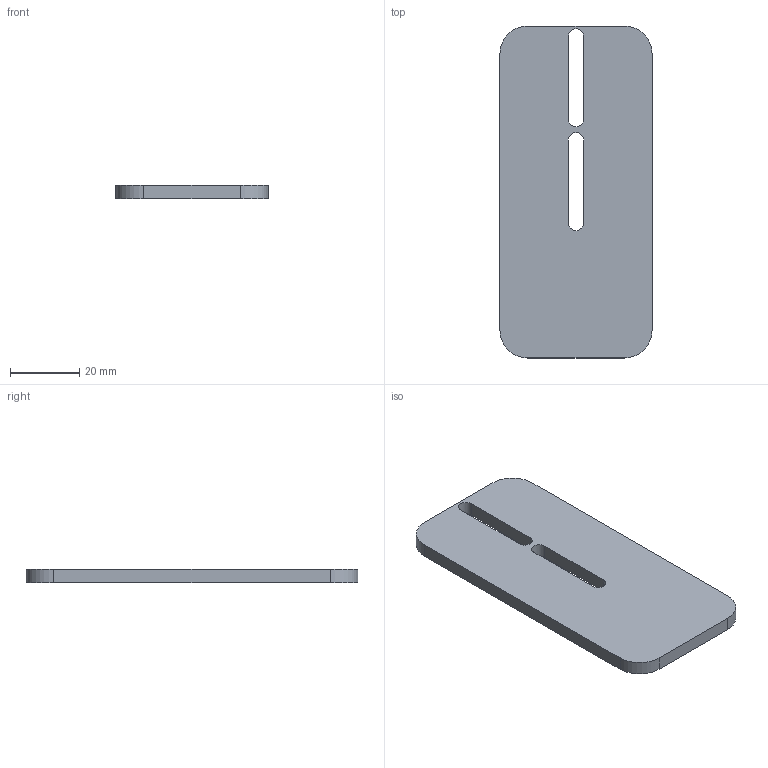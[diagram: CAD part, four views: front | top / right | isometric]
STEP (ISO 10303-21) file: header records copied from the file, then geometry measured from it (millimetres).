
FILE_DESCRIPTION(('Open CASCADE Model'),'2;1');
FILE_NAME('Open CASCADE Shape Model','2026-10-04T18:41:28',('Author'),( 'Open CASCADE'),'Open CASCADE STEP processor 7.8','Open CASCADE 7.8' ,'Unknown');
FILE_SCHEMA(('AUTOMOTIVE_DESIGN { 1 0 10303 214 1 1 1 1 }'));
Length unit declared in the file: millimetre
Products named in the file (1): Open CASCADE STEP translator 7.8 4
Bounding box: 44 x 96 x 4 mm (x, y, z)
Volume: 15709.8 mm3; surface area: 9414.5 mm2
Topology: 1 solids, 1 shells, 18 faces, 48 edges, 32 vertices
Faces by surface type: plane 10, cylinder 8
Entity records: 1202 total; most frequent: CARTESIAN_POINT 239, DIRECTION 174, ORIENTED_EDGE 96, PCURVE 96, DEFINITIONAL_REPRESENTATION 96, LINE 92, VECTOR 92, EDGE_CURVE 48
